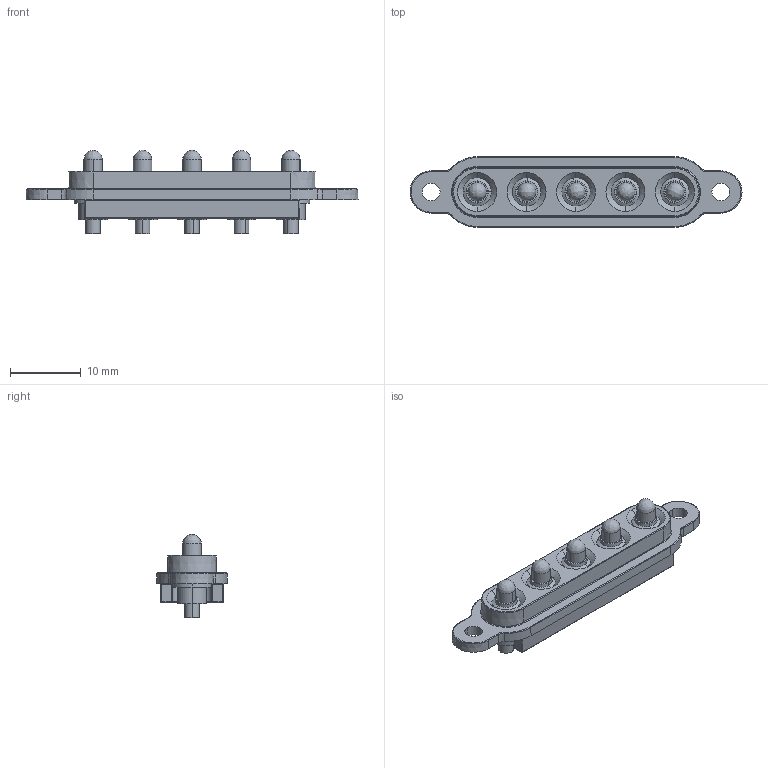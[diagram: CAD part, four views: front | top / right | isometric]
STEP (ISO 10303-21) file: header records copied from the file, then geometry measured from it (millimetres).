
FILE_DESCRIPTION (( 'STEP AP214' ), '1' );
FILE_NAME ('Swift-Dock-5-SC.STEP', '2021-08-06T16:24:14', ( '' ), ( '' ), 'SwSTEP 2.0', 'SolidWorks 2021', '' );
FILE_SCHEMA (( 'AUTOMOTIVE_DESIGN' ));
Length unit declared in the file: millimetre
Products named in the file (6): Coda_PD11JST_body_11; body_5 hole_2; Coda_PD11JST_assy_11; Coda_PD11JST_pin_11; Swift-Dock-5-SC; SD5P_Pin Array_5way_NO PCB
Assembly tree (9 placements, depth 4):
  Swift-Dock-5-SC
    SD5P_Pin Array_5way_NO PCB
      body_5 hole_2
      Coda_PD11JST_assy_11  x5
        Coda_PD11JST_body_11
        Coda_PD11JST_pin_11
Bounding box: 47 x 10 x 11.8 mm (x, y, z)
Volume: 1713.7 mm3; surface area: 2755 mm2
Topology: 11 solids, 11 shells, 404 faces, 888 edges, 521 vertices
Faces by surface type: cylinder 186, plane 79, cone 72, bspline 67
Entity records: 11631 total; most frequent: CARTESIAN_POINT 2930, ORIENTED_EDGE 1176, DIRECTION 1168, EDGE_CURVE 588, AXIS2_PLACEMENT_3D 459, VERTEX_POINT 341, EDGE_LOOP 289, UNCERTAINTY_MEASURE_WITH_UNIT 276
